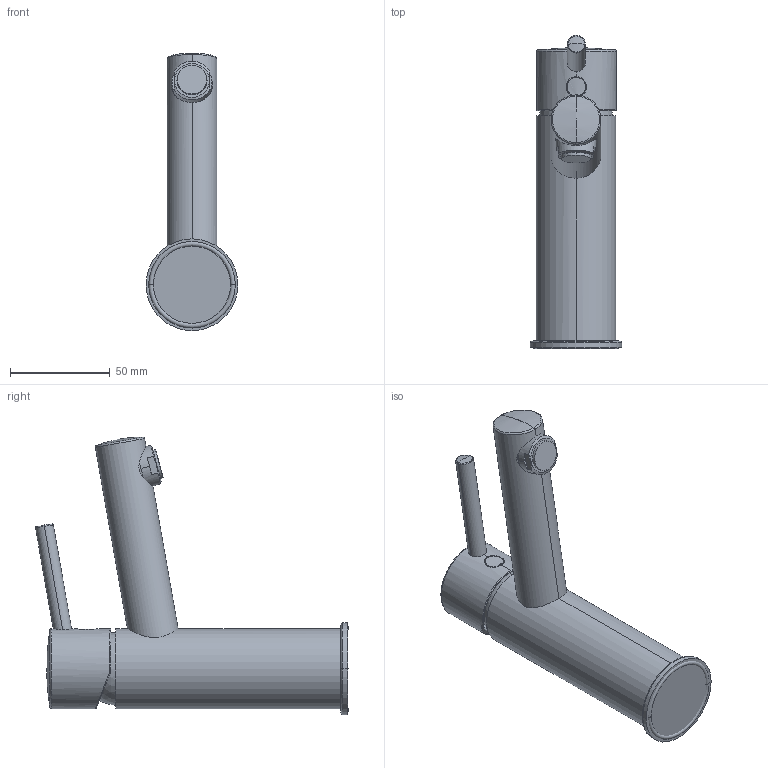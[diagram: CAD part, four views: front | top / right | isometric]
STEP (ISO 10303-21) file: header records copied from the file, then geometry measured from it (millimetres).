
FILE_DESCRIPTION((''),'2;1');
FILE_NAME('14747--00','2026-09-10T09:49:24',('simi1'),(''),'CREO PARAMETRIC BY PTC INC, 2022244','CREO PARAMETRIC BY PTC INC, 2022244','');
FILE_SCHEMA(('CONFIG_CONTROL_DESIGN'));
Length unit declared in the file: millimetre
Products named in the file (1): 14747--00
Bounding box: 46 x 156.71 x 138.89 mm (x, y, z)
Surface area: 42532.3 mm2 (no closed solid volume)
Topology: 0 solids, 27 shells, 265 faces, 932 edges, 669 vertices
Faces by surface type: bspline 85, cylinder 60, plane 54, torus 27, sphere 27, cone 12
Entity records: 15019 total; most frequent: CARTESIAN_POINT 7790, ORIENTED_EDGE 1417, DIRECTION 1367, EDGE_CURVE 926, VERTEX_POINT 669, AXIS2_PLACEMENT_3D 477, VECTOR 413, LINE 413
